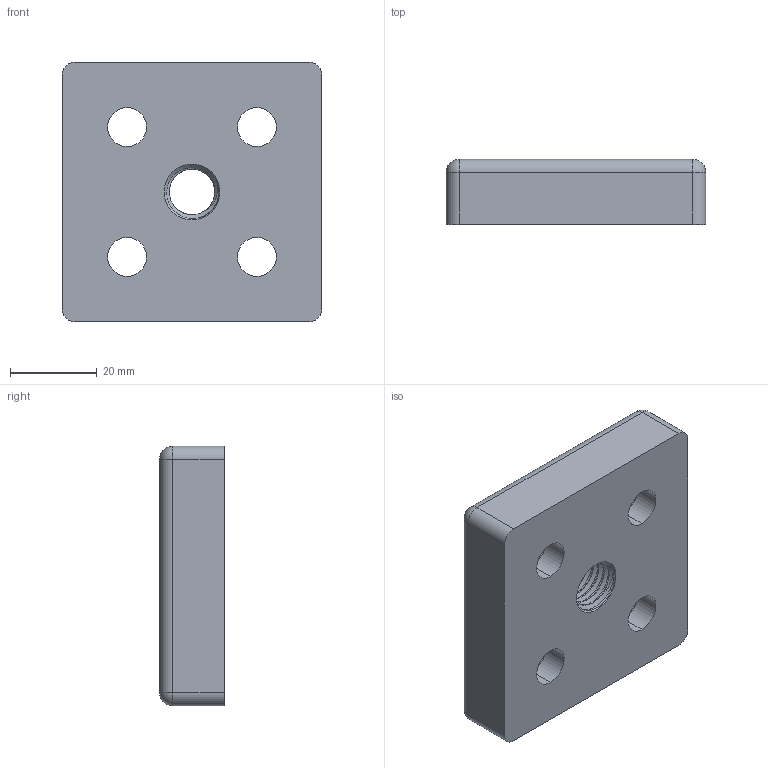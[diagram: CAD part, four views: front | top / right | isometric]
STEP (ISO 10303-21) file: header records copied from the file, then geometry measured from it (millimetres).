
FILE_DESCRIPTION (( 'STEP AP203' ), '1' );
FILE_NAME ('3207.006.306.STEP', '2025-02-19T05:00:12', ( '' ), ( '' ), 'SwSTEP 2.0', 'SolidWorks 2024', '' );
FILE_SCHEMA (( 'CONFIG_CONTROL_DESIGN' ));
Length unit declared in the file: millimetre
Products named in the file (1): 3207.006.306
Bounding box: 60 x 15 x 60 mm (x, y, z)
Volume: 43387.5 mm3; surface area: 12857.5 mm2
Topology: 1 solids, 1 shells, 69 faces, 173 edges, 106 vertices
Faces by surface type: cylinder 40, cone 12, plane 10, sphere 4, bspline 3
Entity records: 4772 total; most frequent: CARTESIAN_POINT 3129, ORIENTED_EDGE 338, DIRECTION 321, EDGE_CURVE 169, AXIS2_PLACEMENT_3D 129, VERTEX_POINT 106, EDGE_LOOP 83, ADVANCED_FACE 69
